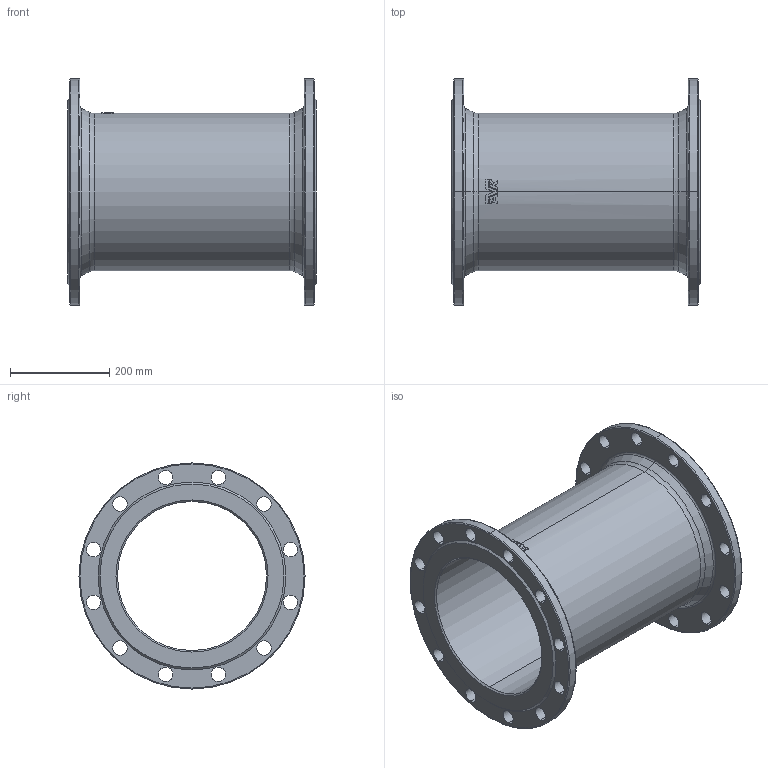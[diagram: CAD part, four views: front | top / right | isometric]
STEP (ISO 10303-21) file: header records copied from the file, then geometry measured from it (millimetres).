
FILE_DESCRIPTION (( 'STEP AP203' ), '1' );
FILE_NAME ('O_712_4810_DN300_1X_REV01.step', '2021-12-01T10:49:32', ( '' ), ( '' ), 'SwSTEP 2.0', 'SolidWorks 2019', '' );
FILE_SCHEMA (( 'CONFIG_CONTROL_DESIGN' ));
Length unit declared in the file: millimetre
Products named in the file (1): O_712_4810_DN300_1X_REV01
Bounding box: 500 x 455 x 455 mm (x, y, z)
Volume: 7732346.5 mm3; surface area: 1321658.6 mm2
Topology: 1 solids, 1 shells, 132 faces, 343 edges, 220 vertices
Faces by surface type: cylinder 61, plane 26, bspline 17, torus 16, cone 12
Entity records: 4890 total; most frequent: CARTESIAN_POINT 1415, DIRECTION 735, ORIENTED_EDGE 686, EDGE_CURVE 343, AXIS2_PLACEMENT_3D 310, VERTEX_POINT 220, CIRCLE 194, EDGE_LOOP 189
